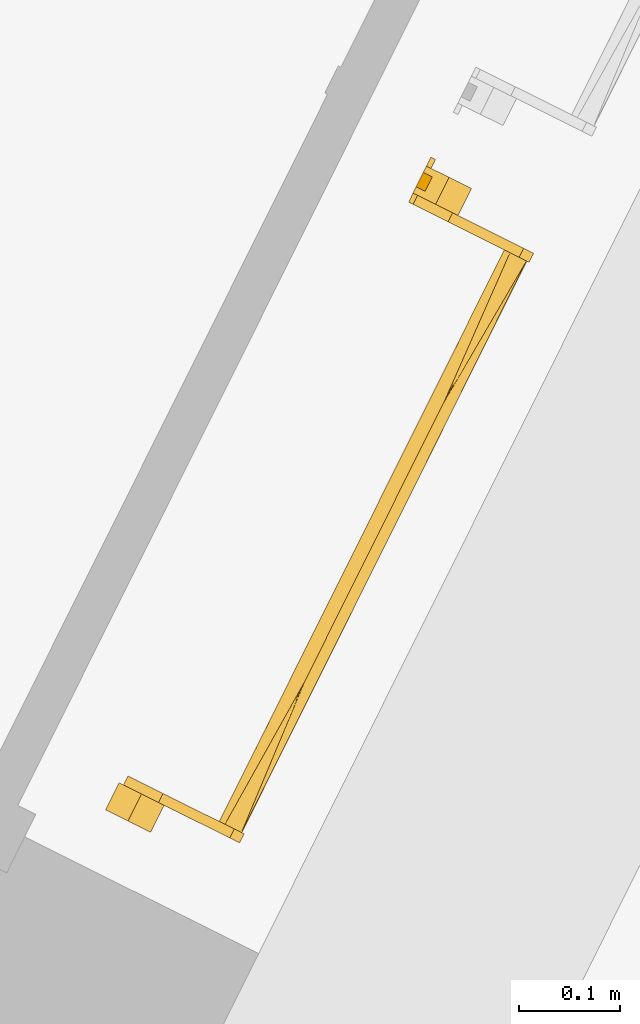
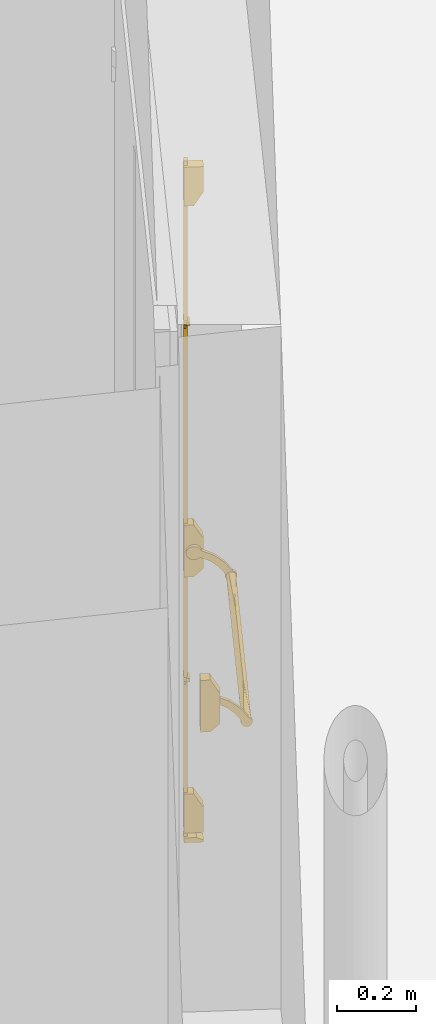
# One storey, part 24 of 91: 1 door.
"""IFC2X3 building model written with IfcOpenShell, lengths in metres."""

from ifc_helpers import new_model, entity, si_unit, converted_unit, derived_unit, direction, frame, origin, place, context, subcontext, project, spatial, faceted_brep, source, transform, mapped, material, material_list, type_object, type_shapes, element, save


model = new_model("IFC2X3")

# Units and contexts
model_context = context("Model", 3, precision=1e-05, world=origin(), true_north=direction((0.894925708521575, 0.446215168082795)))
context_of_model = context(None, 3, precision=1e-05, world=origin(), true_north=direction((0.894925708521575, 0.446215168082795)))
body_context = subcontext(model_context, "Body", "Model", "MODEL_VIEW")
ifc_project = project(units=[si_unit("LENGTHUNIT", "METRE"), si_unit("AREAUNIT", "SQUARE_METRE"), si_unit("VOLUMEUNIT", "CUBIC_METRE"), converted_unit("PLANEANGLEUNIT", "DEGREE", entity("IfcRatioMeasure", 0.0174532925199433), si_unit("PLANEANGLEUNIT", "RADIAN"), dimensions=[0, 0, 0, 0, 0, 0, 0]), si_unit("MASSUNIT", "GRAM", prefix="KILO"), si_unit("TIMEUNIT", "SECOND"), si_unit("FREQUENCYUNIT", "HERTZ"), si_unit("THERMODYNAMICTEMPERATUREUNIT", "DEGREE_CELSIUS"), derived_unit("THERMALTRANSMITTANCEUNIT", [(si_unit("MASSUNIT", "GRAM", prefix="KILO"), 1), (si_unit("THERMODYNAMICTEMPERATUREUNIT", "KELVIN"), -1), (si_unit("TIMEUNIT", "SECOND"), -3)]), derived_unit("VOLUMETRICFLOWRATEUNIT", [(si_unit("LENGTHUNIT", "METRE"), 3), (si_unit("TIMEUNIT", "SECOND"), -1)]), si_unit("ELECTRICCURRENTUNIT", "AMPERE"), si_unit("ELECTRICVOLTAGEUNIT", "VOLT"), si_unit("POWERUNIT", "WATT"), si_unit("FORCEUNIT", "NEWTON", prefix="KILO"), si_unit("ILLUMINANCEUNIT", "LUX"), si_unit("LUMINOUSFLUXUNIT", "LUMEN"), si_unit("LUMINOUSINTENSITYUNIT", "CANDELA"), si_unit("PRESSUREUNIT", "PASCAL")], contexts=[model_context, context_of_model])

# Site, building, storey
site_placement = place(None, frame((218.228324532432, 584.720189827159, 0.0), z_axis=(0.0, 0.0, 1.0), x_axis=(0.446215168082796, 0.894925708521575, 0.0)))
site = spatial("IfcSite", under=ifc_project, at=site_placement, Name="Default", CompositionType="ELEMENT")
building_placement = place(site_placement, origin())
building = spatial("IfcBuilding", under=site, at=building_placement, CompositionType="ELEMENT")
storey_placement = place(building_placement, origin())
storey = spatial("IfcBuildingStorey", under=building, at=storey_placement, Name="0 - Piano Terra", CompositionType="ELEMENT", Elevation=0.0)

# Door
ifc_material_1 = material(Name="Peinture - Gris fonçé")
ifc_material_2 = material(Name="Peinture - Gris")
ifc_material_list_1 = material_list([ifc_material_1, ifc_material_2])
ifc_material_list_2 = material_list([ifc_material_1, ifc_material_2])
door_style = type_object("IfcDoorStyle", Name="BarreAP", ConstructionType="NOTDEFINED", OperationType="NOTDEFINED", ParameterTakesPrecedence=False, Sizeable=False, material=ifc_material_list_2)
shared_shape = source(origin(), body_context, "Body", "Brep", [
    faceted_brep([(0.660000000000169, 0.110048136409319, 0.817251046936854), (0.660000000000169, 0.112636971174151, 0.815264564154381), (0.660000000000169, 0.115651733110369, 0.814015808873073), (0.660000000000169, 0.118886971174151, 0.813589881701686), (0.660000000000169, 0.122122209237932, 0.814015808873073), (0.660000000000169, 0.125136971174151, 0.815264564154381), (0.660000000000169, 0.127725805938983, 0.817251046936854), (0.660000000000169, 0.129712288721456, 0.819839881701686), (0.660000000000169, 0.130961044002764, 0.822854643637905), (0.660000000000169, 0.131386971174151, 0.826089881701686), (0.660000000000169, 0.130961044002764, 0.829325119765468), (0.660000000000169, 0.129712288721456, 0.832339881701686), (0.660000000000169, 0.127725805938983, 0.834928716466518), (0.660000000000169, 0.125136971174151, 0.836915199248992), (0.660000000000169, 0.122122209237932, 0.838163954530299), (0.660000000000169, 0.118886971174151, 0.838589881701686), (0.660000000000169, 0.115651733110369, 0.838163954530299), (0.660000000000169, 0.112636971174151, 0.836915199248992), (0.660000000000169, 0.110048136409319, 0.834928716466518), (0.660000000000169, 0.108061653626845, 0.832339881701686), (0.660000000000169, 0.106812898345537, 0.829325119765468), (0.660000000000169, 0.106386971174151, 0.826089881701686), (0.660000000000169, 0.106812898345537, 0.822854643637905), (0.660000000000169, 0.108061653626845, 0.819839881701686), (0.0250000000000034, 0.115651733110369, 0.838163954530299), (0.0250000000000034, 0.118886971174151, 0.838589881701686), (0.0250000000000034, 0.122122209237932, 0.838163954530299), (0.0250000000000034, 0.125136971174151, 0.836915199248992), (0.0250000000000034, 0.127725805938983, 0.834928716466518), (0.0250000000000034, 0.129712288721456, 0.832339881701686), (0.0250000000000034, 0.130961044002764, 0.829325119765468), (0.0250000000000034, 0.131386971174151, 0.826089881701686), (0.0250000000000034, 0.130961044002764, 0.822854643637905), (0.0250000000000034, 0.129712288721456, 0.819839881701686), (0.0250000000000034, 0.127725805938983, 0.817251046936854), (0.0250000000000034, 0.125136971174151, 0.815264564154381), (0.0250000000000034, 0.122122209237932, 0.814015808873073), (0.0250000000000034, 0.118886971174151, 0.813589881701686), (0.0250000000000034, 0.115651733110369, 0.814015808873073), (0.0250000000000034, 0.112636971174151, 0.815264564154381), (0.0250000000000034, 0.110048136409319, 0.817251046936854), (0.0250000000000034, 0.108061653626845, 0.819839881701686), (0.0250000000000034, 0.106812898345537, 0.822854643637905), (0.0250000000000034, 0.106386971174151, 0.826089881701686), (0.0250000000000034, 0.106812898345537, 0.829325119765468), (0.0250000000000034, 0.108061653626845, 0.832339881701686), (0.0250000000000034, 0.110048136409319, 0.834928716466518), (0.0250000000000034, 0.112636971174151, 0.836915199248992), (0.187822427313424, 0.117501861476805, 0.813666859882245), (0.148450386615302, 0.131386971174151, 0.826089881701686), (0.342500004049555, 0.117635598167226, 0.813652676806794), (0.413099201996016, 0.106386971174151, 0.826089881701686), (0.342500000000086, 0.106386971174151, 0.826089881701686), (0.271900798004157, 0.106386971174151, 0.826089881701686), (0.497177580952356, 0.117501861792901, 0.813666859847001), (0.53654961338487, 0.131386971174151, 0.826089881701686), (0.342500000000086, 0.131386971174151, 0.826089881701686), (0.413099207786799, 0.131386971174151, 0.826089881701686), (0.536549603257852, 0.106386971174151, 0.826089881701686), (0.14845039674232, 0.106386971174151, 0.826089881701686), (0.271900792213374, 0.131386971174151, 0.826089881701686), (0.497177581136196, 0.120272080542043, 0.83851290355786), (0.187822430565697, 0.120272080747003, 0.838512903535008), (0.342500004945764, 0.120138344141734, 0.838527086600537)], [[[0, 1, 2, 3, 4, 5, 6, 7, 8, 9, 10, 11, 12, 13, 14, 15, 16, 17, 18, 19, 20, 21, 22, 23]], [[24, 25, 26, 27, 28, 29, 30, 31, 32, 33, 34, 35, 36, 37, 38, 39, 40, 41, 42, 43, 44, 45, 46, 47]], [[38, 48, 39]], [[35, 48, 36]], [[34, 49, 35]], [[40, 39, 48]], [[50, 51, 52, 53]], [[2, 54, 3]], [[7, 6, 55]], [[34, 33, 49]], [[5, 54, 55]], [[48, 38, 37]], [[32, 49, 33]], [[31, 49, 32]], [[55, 9, 8]], [[56, 50, 48]], [[50, 56, 54]], [[54, 56, 57, 55]], [[54, 23, 22]], [[8, 7, 55]], [[36, 48, 37]], [[48, 41, 40]], [[41, 48, 42]], [[53, 42, 48]], [[53, 48, 50]], [[22, 21, 58, 51]], [[42, 53, 59, 43]], [[48, 49, 60, 56]], [[5, 55, 6]], [[54, 5, 4]], [[51, 54, 22]], [[54, 4, 3]], [[1, 0, 54]], [[54, 2, 1]], [[48, 35, 49]], [[54, 51, 50]], [[54, 0, 23]], [[61, 11, 10]], [[62, 47, 59]], [[57, 61, 10]], [[24, 47, 62]], [[52, 63, 62]], [[61, 12, 11]], [[58, 19, 18]], [[46, 45, 59]], [[26, 25, 62]], [[17, 61, 58]], [[44, 43, 59]], [[58, 21, 20]], [[14, 61, 15]], [[58, 20, 19]], [[61, 63, 52]], [[24, 62, 25]], [[59, 47, 46]], [[62, 28, 27]], [[61, 52, 51, 58]], [[63, 57, 56, 60]], [[44, 59, 45]], [[28, 62, 29]], [[29, 62, 30]], [[60, 30, 62]], [[60, 62, 63]], [[10, 9, 55, 57]], [[30, 60, 49, 31]], [[26, 62, 27]], [[17, 58, 18]], [[17, 16, 61]], [[61, 16, 15]], [[61, 13, 12]], [[13, 61, 14]], [[61, 57, 63]], [[62, 59, 53, 52]]]),
    faceted_brep([(0.660000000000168, 0.0117100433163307, 0.885054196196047), (0.660000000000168, 0.00829982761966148, 0.888995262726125), (0.660000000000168, 0.0060236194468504, 0.893683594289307), (0.660000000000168, 0.00503598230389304, 0.898800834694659), (0.660000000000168, 0.00540398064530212, 0.903999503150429), (0.660000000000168, 0.00710262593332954, 0.908926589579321), (0.660000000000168, 0.0100165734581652, 0.913247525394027), (0.660000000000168, 0.0139479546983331, 0.916668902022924), (0.660000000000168, 0.0186298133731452, 0.918958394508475), (0.660000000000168, 0.0237442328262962, 0.919960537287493), (0.660000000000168, 0.0289439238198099, 0.919607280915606), (0.660000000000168, 0.0338758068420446, 0.91792261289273), (0.660000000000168, 0.0382049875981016, 0.915020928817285), (0.660000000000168, 0.041637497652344, 0.911099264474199), (0.660000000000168, 0.0439402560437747, 0.906423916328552), (0.660000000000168, 0.0755453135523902, 0.891366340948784), (0.660000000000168, 0.10242643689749, 0.868938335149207), (0.660000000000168, 0.122902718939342, 0.840542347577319), (0.660000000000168, 0.126402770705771, 0.839071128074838), (0.660000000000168, 0.129421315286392, 0.836768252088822), (0.660000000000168, 0.13176496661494, 0.833781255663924), (0.660000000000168, 0.133283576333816, 0.830301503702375), (0.660000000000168, 0.133879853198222, 0.826551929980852), (0.660000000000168, 0.133515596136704, 0.822772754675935), (0.660000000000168, 0.132214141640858, 0.819206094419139), (0.660000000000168, 0.130058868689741, 0.816080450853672), (0.660000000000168, 0.127187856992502, 0.813596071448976), (0.660000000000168, 0.123785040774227, 0.811912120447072), (0.660000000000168, 0.120068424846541, 0.811136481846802), (0.660000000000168, 0.11627611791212, 0.811318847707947), (0.660000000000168, 0.112651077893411, 0.812447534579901), (0.660000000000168, 0.109425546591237, 0.814450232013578), (0.660000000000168, 0.106806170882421, 0.817198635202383), (0.660000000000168, 0.104960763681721, 0.820516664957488), (0.660000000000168, 0.10400755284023, 0.824191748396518), (0.660000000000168, 0.104007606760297, 0.827988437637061), (0.660000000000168, 0.10496092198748, 0.831663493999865), (0.660000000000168, 0.0879705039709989, 0.855114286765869), (0.660000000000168, 0.065856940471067, 0.873811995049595), (0.660000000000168, 0.039908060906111, 0.886667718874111), (0.660000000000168, 0.0359573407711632, 0.883268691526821), (0.660000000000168, 0.0312625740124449, 0.881005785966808), (0.660000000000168, 0.0261425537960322, 0.880032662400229), (0.660000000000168, 0.0209449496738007, 0.880415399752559), (0.660000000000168, 0.0160226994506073, 0.88212800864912), (0.670000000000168, 0.133515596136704, 0.822772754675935), (0.670000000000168, 0.133879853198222, 0.826551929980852), (0.670000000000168, 0.133283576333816, 0.830301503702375), (0.670000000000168, 0.13176496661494, 0.833781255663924), (0.670000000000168, 0.129421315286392, 0.836768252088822), (0.670000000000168, 0.126402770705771, 0.839071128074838), (0.670000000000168, 0.122902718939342, 0.840542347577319), (0.670000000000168, 0.10242643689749, 0.868938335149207), (0.670000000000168, 0.0755453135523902, 0.891366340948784), (0.670000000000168, 0.0439402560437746, 0.906423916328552), (0.670000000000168, 0.041637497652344, 0.911099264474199), (0.670000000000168, 0.0382049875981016, 0.915020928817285), (0.670000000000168, 0.0338758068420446, 0.91792261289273), (0.670000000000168, 0.0289439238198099, 0.919607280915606), (0.670000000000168, 0.0237442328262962, 0.919960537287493), (0.670000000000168, 0.0186298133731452, 0.918958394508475), (0.670000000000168, 0.0139479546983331, 0.916668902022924), (0.670000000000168, 0.0100165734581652, 0.913247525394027), (0.670000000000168, 0.00710262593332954, 0.908926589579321), (0.670000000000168, 0.00540398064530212, 0.903999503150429), (0.670000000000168, 0.00503598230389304, 0.898800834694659), (0.670000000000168, 0.0060236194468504, 0.893683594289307), (0.670000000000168, 0.00829982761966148, 0.888995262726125), (0.670000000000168, 0.0117100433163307, 0.885054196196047), (0.670000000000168, 0.0160226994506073, 0.88212800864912), (0.670000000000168, 0.0209449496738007, 0.880415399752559), (0.670000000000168, 0.0261425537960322, 0.880032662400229), (0.670000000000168, 0.0312625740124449, 0.881005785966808), (0.670000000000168, 0.0359573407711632, 0.883268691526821), (0.670000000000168, 0.039908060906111, 0.886667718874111), (0.670000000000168, 0.065856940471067, 0.873811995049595), (0.670000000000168, 0.0879705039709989, 0.855114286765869), (0.670000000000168, 0.10496092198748, 0.831663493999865), (0.670000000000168, 0.104007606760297, 0.827988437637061), (0.670000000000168, 0.10400755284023, 0.824191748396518), (0.670000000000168, 0.104960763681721, 0.820516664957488), (0.670000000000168, 0.106806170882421, 0.817198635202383), (0.670000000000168, 0.109425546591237, 0.814450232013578), (0.670000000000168, 0.112651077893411, 0.812447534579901), (0.670000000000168, 0.11627611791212, 0.811318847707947), (0.670000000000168, 0.120068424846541, 0.811136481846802), (0.670000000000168, 0.123785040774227, 0.811912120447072), (0.670000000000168, 0.127187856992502, 0.813596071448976), (0.670000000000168, 0.130058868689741, 0.816080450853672), (0.670000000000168, 0.132214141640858, 0.819206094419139)], [[[0, 1, 2, 3, 4, 5, 6, 7, 8, 9, 10, 11, 12, 13, 14, 15, 16, 17, 18, 19, 20, 21, 22, 23, 24, 25, 26, 27, 28, 29, 30, 31, 32, 33, 34, 35, 36, 37, 38, 39, 40, 41, 42, 43, 44]], [[45, 46, 47, 48, 49, 50, 51, 52, 53, 54, 55, 56, 57, 58, 59, 60, 61, 62, 63, 64, 65, 66, 67, 68, 69, 70, 71, 72, 73, 74, 75, 76, 77, 78, 79, 80, 81, 82, 83, 84, 85, 86, 87, 88, 89]], [[54, 14, 13, 55]], [[56, 12, 11, 57]], [[56, 55, 13, 12]], [[58, 57, 11, 10]], [[60, 59, 9, 8]], [[62, 61, 7, 6]], [[7, 61, 60, 8]], [[9, 59, 58, 10]], [[62, 6, 5, 63]], [[4, 64, 63, 5]], [[64, 4, 3, 65]], [[66, 2, 1, 67]], [[66, 65, 3, 2]], [[68, 67, 1, 0]], [[70, 69, 44, 43]], [[72, 71, 42, 41]], [[42, 71, 70, 43]], [[44, 69, 68, 0]], [[72, 41, 40, 73]], [[40, 39, 74, 73]], [[39, 38, 75, 74]], [[38, 37, 76, 75]], [[37, 36, 77, 76]], [[77, 36, 35, 78]], [[79, 34, 33, 80]], [[79, 78, 35, 34]], [[81, 80, 33, 32]], [[83, 82, 31, 30]], [[85, 84, 29, 28]], [[29, 84, 83, 30]], [[31, 82, 81, 32]], [[85, 28, 27, 86]], [[27, 26, 87, 86]], [[87, 26, 25, 88]], [[89, 24, 23, 45]], [[89, 88, 25, 24]], [[46, 45, 23, 22]], [[48, 47, 21, 20]], [[50, 49, 19, 18]], [[19, 49, 48, 20]], [[21, 47, 46, 22]], [[50, 18, 17, 51]], [[16, 52, 51, 17]], [[16, 15, 53, 52]], [[14, 54, 53, 15]]]),
    faceted_brep([(0.025, 0.109425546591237, 0.81445023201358), (0.025, 0.112651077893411, 0.812447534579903), (0.025, 0.11627611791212, 0.811318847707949), (0.025, 0.120068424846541, 0.811136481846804), (0.025, 0.123785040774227, 0.811912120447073), (0.025, 0.127187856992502, 0.813596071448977), (0.025, 0.130058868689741, 0.816080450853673), (0.025, 0.132214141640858, 0.819206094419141), (0.025, 0.133515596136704, 0.822772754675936), (0.025, 0.133879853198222, 0.826551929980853), (0.025, 0.133283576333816, 0.830301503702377), (0.025, 0.13176496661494, 0.833781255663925), (0.025, 0.129421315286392, 0.836768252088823), (0.025, 0.126402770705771, 0.839071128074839), (0.025, 0.122902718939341, 0.840542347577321), (0.025, 0.10242643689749, 0.868938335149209), (0.025, 0.0755453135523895, 0.891366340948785), (0.025, 0.0439402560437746, 0.906423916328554), (0.025, 0.041637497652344, 0.9110992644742), (0.025, 0.0382049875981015, 0.915020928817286), (0.025, 0.0338758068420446, 0.917922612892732), (0.025, 0.0289439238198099, 0.919607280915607), (0.025, 0.0237442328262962, 0.919960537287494), (0.025, 0.0186298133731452, 0.918958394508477), (0.025, 0.0139479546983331, 0.916668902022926), (0.025, 0.0100165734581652, 0.913247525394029), (0.025, 0.00710262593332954, 0.908926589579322), (0.025, 0.00540398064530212, 0.903999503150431), (0.025, 0.00503598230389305, 0.89880083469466), (0.025, 0.00602361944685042, 0.893683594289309), (0.025, 0.00829982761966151, 0.888995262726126), (0.025, 0.0117100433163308, 0.885054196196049), (0.025, 0.0160226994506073, 0.882128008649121), (0.025, 0.0209449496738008, 0.880415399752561), (0.025, 0.0261425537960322, 0.88003266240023), (0.025, 0.031262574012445, 0.881005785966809), (0.025, 0.0359573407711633, 0.883268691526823), (0.025, 0.0399080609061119, 0.886667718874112), (0.025, 0.0658569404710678, 0.873811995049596), (0.025, 0.0879705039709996, 0.85511428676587), (0.025, 0.10496092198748, 0.831663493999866), (0.025, 0.104007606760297, 0.827988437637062), (0.025, 0.10400755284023, 0.824191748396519), (0.025, 0.104960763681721, 0.82051666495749), (0.025, 0.106806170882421, 0.817198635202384), (0.015, 0.0139479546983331, 0.916668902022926), (0.015, 0.0186298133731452, 0.918958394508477), (0.015, 0.0237442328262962, 0.919960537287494), (0.015, 0.0289439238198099, 0.919607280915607), (0.015, 0.0338758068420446, 0.917922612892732), (0.015, 0.0382049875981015, 0.915020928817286), (0.015, 0.041637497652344, 0.9110992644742), (0.015, 0.0439402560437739, 0.906423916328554), (0.015, 0.0755453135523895, 0.891366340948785), (0.015, 0.10242643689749, 0.868938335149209), (0.015, 0.122902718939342, 0.84054234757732), (0.015, 0.126402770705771, 0.839071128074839), (0.015, 0.129421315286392, 0.836768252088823), (0.015, 0.13176496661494, 0.833781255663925), (0.015, 0.133283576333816, 0.830301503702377), (0.015, 0.133879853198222, 0.826551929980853), (0.015, 0.133515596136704, 0.822772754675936), (0.015, 0.132214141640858, 0.819206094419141), (0.015, 0.130058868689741, 0.816080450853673), (0.015, 0.127187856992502, 0.813596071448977), (0.015, 0.123785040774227, 0.811912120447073), (0.015, 0.120068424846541, 0.811136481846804), (0.015, 0.11627611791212, 0.811318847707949), (0.015, 0.112651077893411, 0.812447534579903), (0.015, 0.109425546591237, 0.81445023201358), (0.015, 0.106806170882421, 0.817198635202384), (0.015, 0.104960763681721, 0.82051666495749), (0.015, 0.10400755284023, 0.824191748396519), (0.015, 0.104007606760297, 0.827988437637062), (0.015, 0.10496092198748, 0.831663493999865), (0.015, 0.0879705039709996, 0.85511428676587), (0.015, 0.0658569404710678, 0.873811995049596), (0.015, 0.0399080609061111, 0.886667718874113), (0.015, 0.0359573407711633, 0.883268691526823), (0.015, 0.031262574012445, 0.881005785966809), (0.015, 0.0261425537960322, 0.88003266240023), (0.015, 0.0209449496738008, 0.880415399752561), (0.015, 0.0160226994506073, 0.882128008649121), (0.015, 0.0117100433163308, 0.885054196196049), (0.015, 0.00829982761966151, 0.888995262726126), (0.015, 0.00602361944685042, 0.893683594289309), (0.015, 0.00503598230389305, 0.89880083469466), (0.015, 0.00540398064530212, 0.903999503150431), (0.015, 0.00710262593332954, 0.908926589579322), (0.015, 0.0100165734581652, 0.913247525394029)], [[[0, 1, 2, 3, 4, 5, 6, 7, 8, 9, 10, 11, 12, 13, 14, 15, 16, 17, 18, 19, 20, 21, 22, 23, 24, 25, 26, 27, 28, 29, 30, 31, 32, 33, 34, 35, 36, 37, 38, 39, 40, 41, 42, 43, 44]], [[45, 46, 47, 48, 49, 50, 51, 52, 53, 54, 55, 56, 57, 58, 59, 60, 61, 62, 63, 64, 65, 66, 67, 68, 69, 70, 71, 72, 73, 74, 75, 76, 77, 78, 79, 80, 81, 82, 83, 84, 85, 86, 87, 88, 89]], [[16, 53, 52, 17]], [[16, 15, 54, 53]], [[14, 55, 54, 15]], [[55, 14, 13, 56]], [[57, 12, 11, 58]], [[57, 56, 13, 12]], [[59, 58, 11, 10]], [[61, 60, 9, 8]], [[63, 62, 7, 6]], [[7, 62, 61, 8]], [[9, 60, 59, 10]], [[63, 6, 5, 64]], [[5, 4, 65, 64]], [[65, 4, 3, 66]], [[67, 2, 1, 68]], [[67, 66, 3, 2]], [[69, 68, 1, 0]], [[71, 70, 44, 43]], [[73, 72, 42, 41]], [[42, 72, 71, 43]], [[44, 70, 69, 0]], [[73, 41, 40, 74]], [[40, 39, 75, 74]], [[39, 38, 76, 75]], [[38, 37, 77, 76]], [[77, 37, 36, 78]], [[79, 35, 34, 80]], [[79, 78, 36, 35]], [[81, 80, 34, 33]], [[83, 82, 32, 31]], [[85, 84, 30, 29]], [[30, 84, 83, 31]], [[32, 82, 81, 33]], [[85, 29, 28, 86]], [[27, 87, 86, 28]], [[87, 27, 26, 88]], [[89, 25, 24, 45]], [[89, 88, 26, 25]], [[46, 45, 24, 23]], [[48, 47, 22, 21]], [[50, 49, 20, 19]], [[20, 49, 48, 21]], [[22, 47, 46, 23]], [[50, 19, 18, 51]], [[18, 17, 52, 51]]]),
    faceted_brep([(0.700000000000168, 0.0500000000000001, 0.936698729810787), (0.700000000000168, 0.0250000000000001, 0.980000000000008), (0.700000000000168, 0.0, 0.980000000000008), (0.700000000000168, 0.0, 0.819999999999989), (0.700000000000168, 0.0250000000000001, 0.819999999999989), (0.700000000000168, 0.0500000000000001, 0.844999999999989), (0.670000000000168, 0.0500000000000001, 0.936698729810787), (0.670000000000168, 0.0500000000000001, 0.844999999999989), (0.670000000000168, 0.0250000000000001, 0.819999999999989), (0.670000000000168, 0.0, 0.819999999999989), (0.670000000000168, 0.0, 0.980000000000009), (0.670000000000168, 0.0250000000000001, 0.980000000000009)], [[[0, 1, 2, 3, 4, 5]], [[6, 7, 8, 9, 10, 11]], [[5, 7, 6, 0]], [[4, 8, 7, 5]], [[3, 9, 8, 4]], [[2, 10, 9, 3]], [[1, 11, 10, 2]], [[0, 6, 11, 1]]]),
    faceted_brep([(-0.0129999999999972, 0.005, 1.605), (-0.0249999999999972, 0.005, 1.605), (-0.0249999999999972, 0.0, 1.605), (-0.00799999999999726, 0.0, 1.605), (-0.00799999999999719, 0.01, 1.605), (0.00800000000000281, 0.01, 1.605), (0.00800000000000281, 0.0, 1.605), (0.0250000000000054, 0.0, 1.605), (0.0250000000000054, 0.005, 1.605), (0.013000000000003, 0.005, 1.605), (0.0130000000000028, 0.015, 1.605), (-0.0129999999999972, 0.015, 1.605), (-0.0129999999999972, 0.005, 1.595), (-0.0129999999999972, 0.015, 1.595), (0.0130000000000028, 0.015, 1.595), (0.013000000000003, 0.005, 1.595), (0.0250000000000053, 0.005, 1.595), (0.0250000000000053, 0.0, 1.595), (0.00800000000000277, 0.0, 1.595), (0.00800000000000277, 0.01, 1.595), (-0.00799999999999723, 0.01, 1.595), (-0.00799999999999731, 0.0, 1.595), (-0.0249999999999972, 0.0, 1.595), (-0.0249999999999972, 0.005, 1.595)], [[[0, 1, 2, 3, 4, 5, 6, 7, 8, 9, 10, 11]], [[12, 13, 14, 15, 16, 17, 18, 19, 20, 21, 22, 23]], [[11, 13, 12, 0]], [[10, 14, 13, 11]], [[9, 15, 14, 10]], [[8, 16, 15, 9]], [[7, 17, 16, 8]], [[6, 18, 17, 7]], [[5, 19, 18, 6]], [[4, 20, 19, 5]], [[3, 21, 20, 4]], [[2, 22, 21, 3]], [[1, 23, 22, 2]], [[0, 12, 23, 1]]]),
    faceted_brep([(0.015, 0.0500000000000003, 2.00830127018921), (0.015, 0.0500000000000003, 2.08499999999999), (0.015, 0.0, 2.08499999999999), (0.015, 0.0, 1.96499999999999), (0.015, 0.0250000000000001, 1.96499999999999), (-0.015, 0.0500000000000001, 0.106698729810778), (-0.015, 0.0500000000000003, 0.0300000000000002), (-0.015, 0.0, 0.0300000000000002), (-0.015, 0.0, 0.15), (-0.015, 0.0250000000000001, 0.15), (-0.015, 0.0250000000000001, 1.96499999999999), (-0.015, 0.0500000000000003, 2.00830127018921), (0.008, 0.0, 1.96499999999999), (0.008, 0.01, 1.96499999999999), (-0.008, 0.01, 1.96499999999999), (-0.008, 0.0, 1.96499999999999), (-0.015, 0.0, 1.96499999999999), (0.008, 0.0, 2.08499999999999), (0.008, 0.0, 2.1), (-0.008, 0.0, 2.1), (-0.008, 0.0, 2.08499999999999), (-0.015, 0.0, 2.08499999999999), (-0.008, 0.0, 0.98000000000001), (-0.015, 0.0, 0.98000000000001), (-0.015, 0.0, 0.819999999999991), (-0.008, 0.0, 0.819999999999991), (-0.008, 0.0, 0.15), (-0.008, 0.0, 0.0300000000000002), (-0.008, 0.0, 0.0149999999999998), (0.008, 0.0, 0.0149999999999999), (0.008, 0.0, 0.0300000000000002), (0.015, 0.0, 0.0300000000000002), (0.015, 0.0, 0.15), (0.008, 0.0, 0.15), (0.008, 0.0, 0.819999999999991), (0.015, 0.0, 0.819999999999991), (0.015, 0.0, 0.98000000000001), (0.008, 0.0, 0.98000000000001), (-0.015, 0.0500000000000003, 2.08499999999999), (-0.008, 0.01, 2.08499999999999), (0.008, 0.01, 2.08499999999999), (0.015, 0.0500000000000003, 0.0300000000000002), (0.015, 0.0500000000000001, 0.106698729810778), (0.008, 0.01, 0.0300000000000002), (-0.008, 0.01, 0.0300000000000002), (0.015, 0.0250000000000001, 0.15), (-0.008, 0.01, 0.15), (0.008, 0.01, 0.15), (0.008, 0.01, 2.1), (-0.008, 0.01, 2.1), (-0.008, 0.01, 0.0149999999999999), (0.008, 0.01, 0.0149999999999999), (0.015, 0.025, 0.98000000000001), (0.015, 0.025, 0.819999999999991), (0.015, 0.0500000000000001, 0.844999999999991), (0.015, 0.0500000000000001, 0.936698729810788), (-0.015, 0.025, 0.98000000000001), (-0.015, 0.0500000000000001, 0.936698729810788), (-0.015, 0.0500000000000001, 0.844999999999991), (-0.015, 0.025, 0.819999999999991), (0.008, 0.01, 0.819999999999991), (-0.008, 0.01, 0.819999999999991), (-0.008, 0.01, 0.98000000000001), (0.008, 0.01, 0.98000000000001)], [[[0, 1, 2, 3, 4]], [[5, 6, 7, 8, 9]], [[4, 10, 11, 0]], [[3, 12, 13, 14, 15, 16, 10, 4]], [[2, 17, 18, 19, 20, 21, 16, 15, 22, 23, 24, 25, 26, 8, 7, 27, 28, 29, 30, 31, 32, 33, 34, 35, 36, 37, 12, 3]], [[1, 38, 21, 20, 39, 40, 17, 2]], [[0, 11, 38, 1]], [[41, 6, 5, 42]], [[31, 30, 43, 44, 27, 7, 6, 41]], [[45, 9, 8, 26, 46, 47, 33, 32]], [[42, 5, 9, 45]], [[18, 48, 49, 19]], [[29, 28, 50, 51]], [[49, 39, 20, 19]], [[48, 40, 39, 49]], [[18, 17, 40, 48]], [[52, 36, 35, 53, 54, 55]], [[56, 57, 58, 59, 24, 23]], [[55, 57, 56, 52]], [[54, 58, 57, 55]], [[53, 59, 58, 54]], [[35, 34, 60, 61, 25, 24, 59, 53]], [[52, 56, 23, 22, 62, 63, 37, 36]], [[12, 37, 63, 13]], [[47, 60, 34, 33]], [[51, 43, 30, 29]], [[13, 63, 62, 14]], [[46, 61, 60, 47]], [[50, 44, 43, 51]], [[14, 62, 22, 15]], [[26, 25, 61, 46]], [[28, 27, 44, 50]], [[11, 10, 16, 21, 38]], [[42, 45, 32, 31, 41]]]),
    faceted_brep([(-0.00799999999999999, 0.01, 0.505), (0.00800000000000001, 0.01, 0.504999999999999), (0.00800000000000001, 0.0, 0.504999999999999), (0.0250000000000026, 0.0, 0.504999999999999), (0.0250000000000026, 0.005, 0.504999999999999), (0.013, 0.005, 0.504999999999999), (0.013, 0.015, 0.504999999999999), (-0.013, 0.015, 0.505), (-0.013, 0.005, 0.505), (-0.025, 0.005, 0.505), (-0.025, 0.0, 0.505), (-0.00800000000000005, 0.0, 0.505), (-0.00800000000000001, 0.01, 0.495), (-0.00800000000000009, 0.0, 0.495), (-0.025, 0.0, 0.495), (-0.025, 0.005, 0.495), (-0.013, 0.005, 0.495), (-0.013, 0.015, 0.495), (0.013, 0.015, 0.494999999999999), (0.013, 0.005, 0.494999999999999), (0.0250000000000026, 0.005, 0.494999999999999), (0.0250000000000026, 0.0, 0.494999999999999), (0.00799999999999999, 0.0, 0.494999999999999), (0.00799999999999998, 0.01, 0.494999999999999)], [[[0, 1, 2, 3, 4, 5, 6, 7, 8, 9, 10, 11]], [[12, 13, 14, 15, 16, 17, 18, 19, 20, 21, 22, 23]], [[11, 13, 12, 0]], [[10, 14, 13, 11]], [[9, 15, 14, 10]], [[8, 16, 15, 9]], [[7, 17, 16, 8]], [[6, 18, 17, 7]], [[5, 19, 18, 6]], [[4, 20, 19, 5]], [[3, 21, 20, 4]], [[2, 22, 21, 3]], [[1, 23, 22, 2]], [[0, 12, 23, 1]]]),
    faceted_brep([(0.015, 0.0322782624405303, 0.015), (0.015, 0.0, 0.0149999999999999), (0.015, 0.0, 0.0), (0.015, 0.0500000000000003, 0.0), (0.015, 0.0500000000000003, 0.00673621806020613), (-0.015, 0.0322782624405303, 0.015), (-0.015, 0.0500000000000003, 0.00673621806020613), (-0.015, 0.0500000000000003, 0.0), (-0.015, 0.0, 0.0), (-0.015, 0.0, 0.0149999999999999)], [[[0, 1, 2, 3, 4]], [[5, 6, 7, 8, 9]], [[4, 6, 5, 0]], [[3, 7, 6, 4]], [[2, 8, 7, 3]], [[1, 9, 8, 2]], [[0, 5, 9, 1]]]),
])
type_shapes(door_style, [shared_shape])
door_placement = place(storey_placement, frame((-53.9894493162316, 0.9989210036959, 0.0), z_axis=(0.0, 0.0, 1.0), x_axis=(-1.0, 0.0, 0.0)))
element("IfcDoor", 1, at=door_placement, inside=storey, type_object=door_style, material=ifc_material_list_1, Name="BarreAP:BarreAP", ObjectType="BarreAP", OverallHeight=2.1, OverallWidth=0.760000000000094, context=body_context, shape_type="MappedRepresentation", body=[
    mapped(shared_shape, transform((0.0, 0.0, 0.0), scale=1.0)),
])

save(model, "model.ifc")
